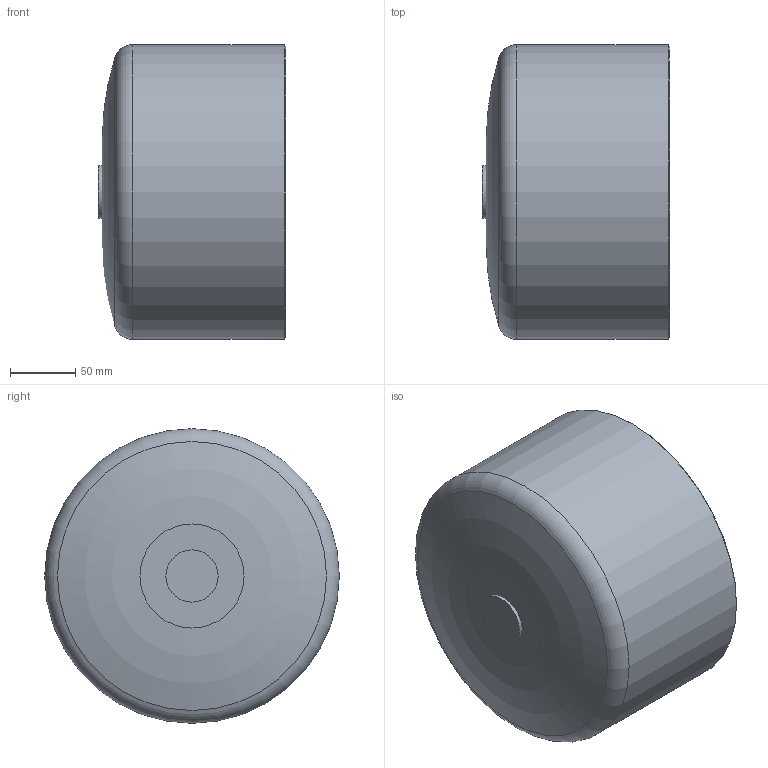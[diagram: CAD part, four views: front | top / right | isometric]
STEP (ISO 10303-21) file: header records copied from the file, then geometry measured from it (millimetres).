
FILE_DESCRIPTION(/* description */ ('Unknown'),/* implementation_level */ '2;1');
FILE_NAME(/* name */ 'CAP225B',/* time_stamp */ '2022-04-02T09:37:02+02:00',/* author */ ('Unknown'),/* organization */ ('Unknown'),/* preprocessor_version */ 'ST-DEVELOPER v18.1',/* originating_system */ 'Solid Edge',/* authorisation */ 'Unknown');
FILE_SCHEMA (('AUTOMOTIVE_DESIGN {1 0 10303 214 3 1 1}'));
Length unit declared in the file: millimetre
Products named in the file (1): CAP225B
Bounding box: 143 x 225 x 225 mm (x, y, z)
Volume: 1805539.2 mm3; surface area: 236139.2 mm2
Topology: 1 solids, 1 shells, 12 faces, 20 edges, 12 vertices
Faces by surface type: plane 4, torus 4, cylinder 3, cone 1
Full cylindrical faces by diameter (mm): 40 x1, 198.2 x1, 225 x1
Entity records: 264 total; most frequent: DIRECTION 48, CARTESIAN_POINT 35, AXIS2_PLACEMENT_3D 24, ORIENTED_EDGE 22, EDGE_LOOP 22, FACE_BOUND 22, ADVANCED_FACE 12, EDGE_CURVE 11
